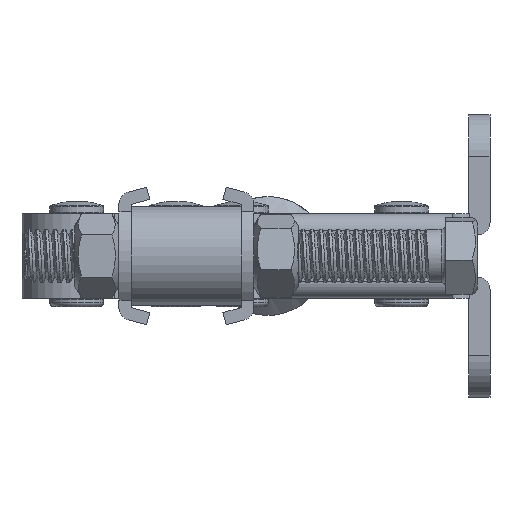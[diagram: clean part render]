
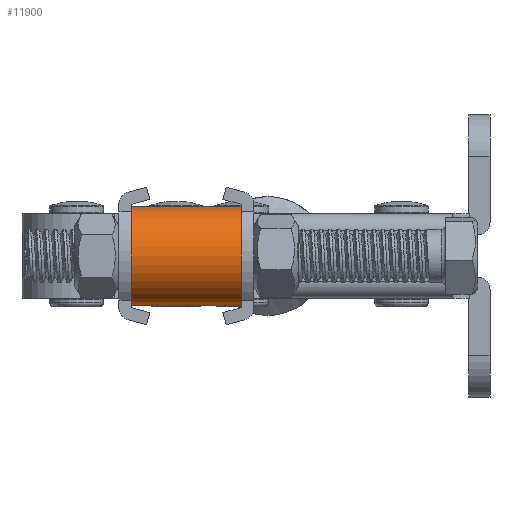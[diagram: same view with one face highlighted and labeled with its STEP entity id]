
A CAD part, left-side view. The second image highlights one B-rep face of the part: STEP entity #11900.
In plain terms, the highlighted cylindrical face has radius 11.7 mm (diameter 23.4 mm), a partial arc.
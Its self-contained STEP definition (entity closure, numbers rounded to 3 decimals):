
#1268=CYLINDRICAL_SURFACE('',#12739,11.7);
#1535=LINE('',#44088,#2521);
#1792=LINE('',#47747,#2778);
#2521=VECTOR('',#13825,1000.);
#2778=VECTOR('',#14176,1000.);
#3595=FACE_OUTER_BOUND('',#4253,.T.);
#4253=EDGE_LOOP('',(#9450,#9451,#9452,#9453));
#4772=CIRCLE('',#12701,11.7);
#4776=CIRCLE('',#12740,11.7);
#5257=VERTEX_POINT('',#44082);
#5259=VERTEX_POINT('',#44086);
#5472=VERTEX_POINT('',#45825);
#5594=VERTEX_POINT('',#47745);
#6621=EDGE_CURVE('',#5257,#5259,#1535,.T.);
#6849=EDGE_CURVE('',#5472,#5259,#4772,.T.);
#7059=EDGE_CURVE('',#5594,#5257,#4776,.T.);
#7060=EDGE_CURVE('',#5594,#5472,#1792,.T.);
#9450=ORIENTED_EDGE('',*,*,#7059,.T.);
#9451=ORIENTED_EDGE('',*,*,#6621,.T.);
#9452=ORIENTED_EDGE('',*,*,#6849,.F.);
#9453=ORIENTED_EDGE('',*,*,#7060,.F.);
#11900=ADVANCED_FACE('',(#3595),#1268,.T.);
#12701=AXIS2_PLACEMENT_3D('',#45827,#13943,#13944);
#12739=AXIS2_PLACEMENT_3D('',#47744,#14172,#14173);
#12740=AXIS2_PLACEMENT_3D('',#47746,#14174,#14175);
#13825=DIRECTION('',(0.,-1.,0.));
#13943=DIRECTION('center_axis',(0.,-1.,0.));
#13944=DIRECTION('ref_axis',(0.,0.,-1.));
#14172=DIRECTION('center_axis',(0.,-1.,0.));
#14173=DIRECTION('ref_axis',(0.,0.,
1.));
#14174=DIRECTION('center_axis',(0.,-1.,0.));
#14175=DIRECTION('ref_axis',(0.,0.,-1.));
#14176=DIRECTION('',(0.,-1.,0.));
#44082=CARTESIAN_POINT('',(0.,10.5,122.263));
#44086=CARTESIAN_POINT('',(0.,-15.5,122.263));
#44088=CARTESIAN_POINT('',(0.,36.51,122.263));
#45825=CARTESIAN_POINT('',(23.4,-15.5,122.263));
#45827=CARTESIAN_POINT('Origin',(11.7,-15.5,122.263));
#47744=CARTESIAN_POINT('Origin',(11.7,36.51,122.263));
#47745=CARTESIAN_POINT('',(23.4,10.5,122.263));
#47746=CARTESIAN_POINT('Origin',(11.7,10.5,122.263));
#47747=CARTESIAN_POINT('',(23.4,36.51,122.263));
